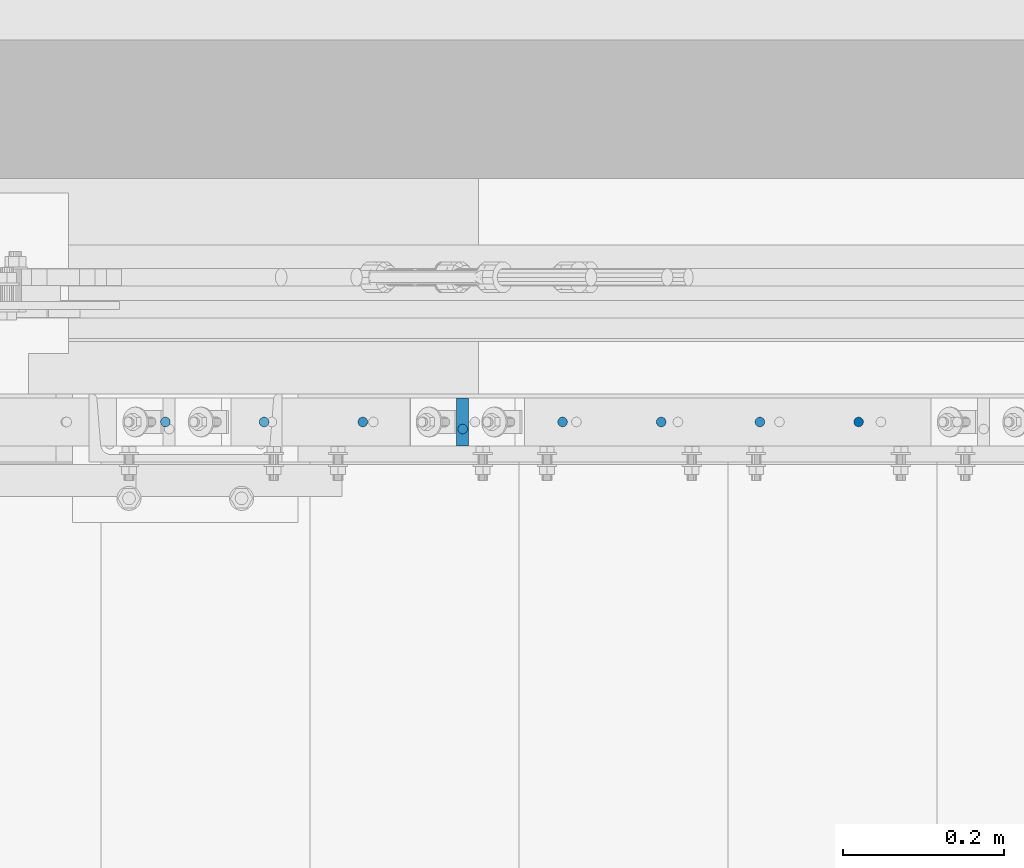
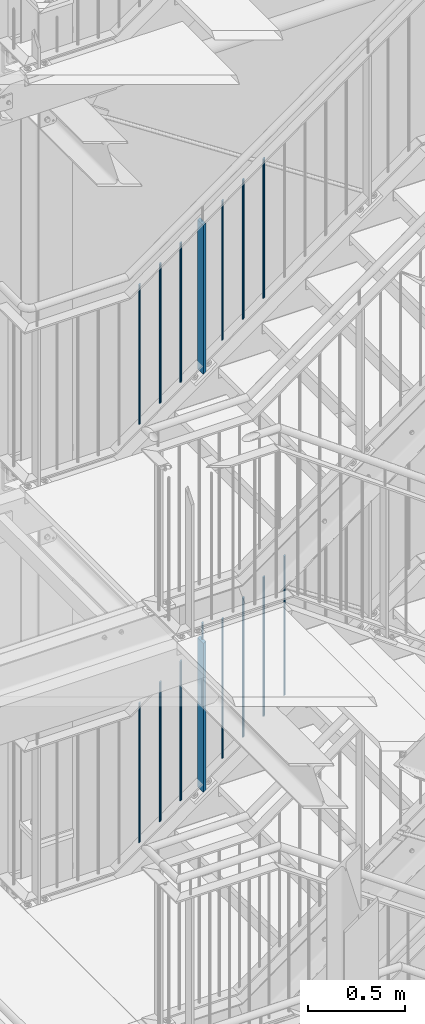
# One storey, part 77 of 831: 16 columns.
"""IFC2X3 building model written with IfcOpenShell, lengths in millimetres."""

from ifc_helpers import new_model, entity, si_unit, converted_unit, frame, origin, origin_with_axes, origin_2d, place, context, project, spatial, rectangle, circle, extrude, clip, halfspace, material, element, save


model = new_model("IFC2X3")

# Units and contexts
model_context = context("Model", 3, precision=1e-09, world=origin_with_axes())
ifc_project = project(units=[si_unit("LENGTHUNIT", "METRE", prefix="MILLI"), si_unit("AREAUNIT", "SQUARE_METRE"), si_unit("VOLUMEUNIT", "CUBIC_METRE"), converted_unit("PLANEANGLEUNIT", "DEGREE", entity("IfcPlaneAngleMeasure", 0.01745329), si_unit("PLANEANGLEUNIT", "RADIAN"), dimensions=[0, 0, 0, 0, 0, 0, 0])], contexts=[model_context])

# Site, building, storey
site_placement = place(None, origin_with_axes())
site = spatial("IfcSite", under=ifc_project, at=site_placement, Name="Site", CompositionType="ELEMENT")
building_placement = place(site_placement, origin_with_axes())
building = spatial("IfcBuilding", under=site, at=building_placement, Name="Struktur 1", CompositionType="ELEMENT")
storey_placement = place(building_placement, origin_with_axes())
storey = spatial("IfcBuildingStorey", under=building, at=storey_placement, Name="Default Storey", CompositionType="ELEMENT", Elevation=0.0)

# Columns
ifc_material = material(Name="S235JR")
column_1_placement = place(None, frame((5686.71354585, 7347.936971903, 8769.69432193), z_axis=(0.0, 0.0, 1.0), x_axis=(0.0, -1.0, 0.0)))
element("IfcColumn", 1, at=column_1_placement, inside=storey, material=ifc_material, Name="Bar#1", ObjectType="Bar#1", context=model_context, shape_type="Clipping", body=[
    clip(clip(extrude(circle(Radius=6.0, at=origin_2d()), origin(), (0.0, 0.0, -1.0), 120.942253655), halfspace(frame((7347.936971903, -7845.864992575, -5783.633810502), z_axis=(0.0, -0.585945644, 0.810350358), x_axis=(1.0, 0.0, 0.0)), True)), halfspace(frame((7347.936971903, -7893.345946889, -5717.968660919), z_axis=(0.0, 0.585945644, -0.810350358), x_axis=(-1.0, 0.0, 0.0)), True)),
])
column_2_placement = place(None, frame((5686.71354585, 7356.736971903, 8685.043251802), z_axis=(0.0, 0.0, 1.0), x_axis=(1.0, 0.0, 0.0)))
element("IfcColumn", 2, at=column_2_placement, inside=storey, material=ifc_material, Name="Railing_Post_Stair#1", ObjectType="Railing_Post_Stair#1", context=model_context, shape_type="Clipping", body=[
    clip(clip(extrude(rectangle(XDim=15.0, YDim=60.0, at=origin_2d()), origin(), (0.0, 0.0, -1.0), 1013.13824851), halfspace(frame((-7395.184691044, -7356.736971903, -6322.264008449), z_axis=(-0.585945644, 0.0, 0.810350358), x_axis=(0.0, -1.0, 0.0)), True)), halfspace(frame((-7840.004364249, -7356.736971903, -5707.087864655), z_axis=(0.585945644, 0.0, -0.810350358), x_axis=(0.0, 1.0, 0.0)), True)),
])
column_3_placement = place(None, frame((5316.963498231, 7356.736971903, 8389.996253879), z_axis=(0.0, 0.0, 1.0), x_axis=(1.0, 0.0, 0.0)))
element("IfcColumn", 3, at=column_3_placement, inside=storey, material=ifc_material, Name="Railing_Picket_Stair#4", ObjectType="Railing_Picket_Stair#4", context=model_context, shape_type="Clipping", body=[
    clip(clip(extrude(circle(Radius=6.0, at=origin_2d()), origin(), (0.0, 0.0, -1.0), 896.057999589), halfspace(frame((-7470.25431663, -7356.736971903, -5412.040866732), z_axis=(0.585945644, 0.0, -0.810350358), x_axis=(0.0, 1.0, 0.0)), True)), halfspace(frame((-7054.731925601, -7356.736971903, -5986.699492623), z_axis=(-0.585945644, 0.0, 0.810350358), x_axis=(0.0, -1.0, 0.0)), True)),
])
column_4_placement = place(None, frame((5439.713522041, 7356.736971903, 8478.753963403), z_axis=(0.0, 0.0, 1.0), x_axis=(1.0, 0.0, 0.0)))
element("IfcColumn", 4, at=column_4_placement, inside=storey, material=ifc_material, Name="Railing_Picket_Stair#5", ObjectType="Railing_Picket_Stair#5", context=model_context, shape_type="Clipping", body=[
    clip(clip(extrude(circle(Radius=6.0, at=origin_2d()), origin(), (0.0, 0.0, -1.0), 896.057999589), halfspace(frame((-7593.004340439, -7356.736971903, -5500.798576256), z_axis=(0.585945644, 0.0, -0.810350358), x_axis=(0.0, 1.0, 0.0)), True)), halfspace(frame((-7177.48194941, -7356.736971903, -6075.457202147), z_axis=(-0.585945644, 0.0, 0.810350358), x_axis=(0.0, -1.0, 0.0)), True)),
])
column_5_placement = place(None, frame((5562.46354585, 7356.736971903, 8567.511672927), z_axis=(0.0, 0.0, 1.0), x_axis=(1.0, 0.0, 0.0)))
element("IfcColumn", 5, at=column_5_placement, inside=storey, material=ifc_material, Name="Railing_Picket_Stair#6", ObjectType="Railing_Picket_Stair#6", context=model_context, shape_type="Clipping", body=[
    clip(clip(extrude(circle(Radius=6.0, at=origin_2d()), origin(), (0.0, 0.0, -1.0), 896.057999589), halfspace(frame((-7715.754364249, -7356.736971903, -5589.55628578), z_axis=(0.585945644, 0.0, -0.810350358), x_axis=(0.0, 1.0, 0.0)), True)), halfspace(frame((-7300.23197322, -7356.736971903, -6164.214911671), z_axis=(-0.585945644, 0.0, 0.810350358), x_axis=(0.0, -1.0, 0.0)), True)),
])
column_6_placement = place(None, frame((5810.96354585, 7356.736971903, 8747.196288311), z_axis=(0.0, 0.0, 1.0), x_axis=(1.0, 0.0, 0.0)))
element("IfcColumn", 6, at=column_6_placement, inside=storey, material=ifc_material, Name="Railing_Picket_Stair#7", ObjectType="Railing_Picket_Stair#7", context=model_context, shape_type="Clipping", body=[
    clip(clip(extrude(circle(Radius=6.0, at=origin_2d()), origin(), (0.0, 0.0, -1.0), 896.057999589), halfspace(frame((-7964.254364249, -7356.736971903, -5769.240901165), z_axis=(0.585945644, 0.0, -0.810350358), x_axis=(0.0, 1.0, 0.0)), True)), halfspace(frame((-7548.73197322, -7356.736971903, -6343.899527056), z_axis=(-0.585945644, 0.0, 0.810350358), x_axis=(0.0, -1.0, 0.0)), True)),
])
column_7_placement = place(None, frame((5933.71356966, 7356.736971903, 8835.953997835), z_axis=(0.0, 0.0, 1.0), x_axis=(1.0, 0.0, 0.0)))
element("IfcColumn", 7, at=column_7_placement, inside=storey, material=ifc_material, Name="Railing_Picket_Stair#8", ObjectType="Railing_Picket_Stair#8", context=model_context, shape_type="Clipping", body=[
    clip(clip(extrude(circle(Radius=6.0, at=origin_2d()), origin(), (0.0, 0.0, -1.0), 896.057999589), halfspace(frame((-8087.004388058, -7356.736971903, -5857.998610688), z_axis=(0.585945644, 0.0, -0.810350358), x_axis=(0.0, 1.0, 0.0)), True)), halfspace(frame((-7671.481997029, -7356.736971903, -6432.657236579), z_axis=(-0.585945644, 0.0, 0.810350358), x_axis=(0.0, -1.0, 0.0)), True)),
])
column_8_placement = place(None, frame((6056.463593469, 7356.736971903, 8924.711707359), z_axis=(0.0, 0.0, 1.0), x_axis=(1.0, 0.0, 0.0)))
element("IfcColumn", 8, at=column_8_placement, inside=storey, material=ifc_material, Name="Railing_Picket_Stair#9", ObjectType="Railing_Picket_Stair#9", context=model_context, shape_type="Clipping", body=[
    clip(clip(extrude(circle(Radius=6.0, at=origin_2d()), origin(), (0.0, 0.0, -1.0), 896.057999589), halfspace(frame((-8209.754411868, -7356.736971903, -5946.756320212), z_axis=(0.585945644, 0.0, -0.810350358), x_axis=(0.0, 1.0, 0.0)), True)), halfspace(frame((-7794.232020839, -7356.736971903, -6521.414946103), z_axis=(-0.585945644, 0.0, 0.810350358), x_axis=(0.0, -1.0, 0.0)), True)),
])
column_9_placement = place(None, frame((6179.213617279, 7356.736971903, 9013.469416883), z_axis=(0.0, 0.0, 1.0), x_axis=(1.0, 0.0, 0.0)))
element("IfcColumn", 9, at=column_9_placement, inside=storey, material=ifc_material, Name="Railing_Picket_Stair#10", ObjectType="Railing_Picket_Stair#10", context=model_context, shape_type="Clipping", body=[
    clip(clip(extrude(circle(Radius=6.0, at=origin_2d()), origin(), (0.0, 0.0, -1.0), 896.057999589), halfspace(frame((-8332.504435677, -7356.736971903, -6035.514029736), z_axis=(0.585945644, 0.0, -0.810350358), x_axis=(0.0, 1.0, 0.0)), True)), halfspace(frame((-7916.982044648, -7356.736971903, -6610.172655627), z_axis=(-0.585945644, 0.0, 0.810350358), x_axis=(0.0, -1.0, 0.0)), True)),
])
column_10_placement = place(None, frame((5686.71354585, 7356.736971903, 11316.425342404), z_axis=(0.0, 0.0, 1.0), x_axis=(1.0, 0.0, 0.0)))
element("IfcColumn", 10, at=column_10_placement, inside=storey, material=ifc_material, Name="Railing_Post_Stair#1", ObjectType="Railing_Post_Stair#1", context=model_context, shape_type="Clipping", body=[
    clip(clip(extrude(rectangle(XDim=15.0, YDim=60.0, at=origin_2d()), origin(), (0.0, 0.0, -1.0), 1013.129684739), halfspace(frame((-8646.553290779, -7356.736971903, -7215.238944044), z_axis=(-0.585213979, 0.0, 0.810878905), x_axis=(0.0, -1.0, 0.0)), True)), halfspace(frame((-9091.126835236, -7356.736971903, -6599.232967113), z_axis=(0.585213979, 0.0, -0.810878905), x_axis=(0.0, 1.0, 0.0)), True)),
])
column_11_placement = place(None, frame((5316.963498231, 7356.736971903, 11021.904291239), z_axis=(0.0, 0.0, 1.0), x_axis=(1.0, 0.0, 0.0)))
element("IfcColumn", 11, at=column_11_placement, inside=storey, material=ifc_material, Name="Railing_Picket_Stair#4", ObjectType="Railing_Picket_Stair#4", context=model_context, shape_type="Clipping", body=[
    clip(clip(extrude(circle(Radius=6.0, at=origin_2d()), origin(), (0.0, 0.0, -1.0), 896.125751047), halfspace(frame((-8721.376787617, -7356.736971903, -6304.711915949), z_axis=(0.585213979, 0.0, -0.810878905), x_axis=(0.0, 1.0, 0.0)), True)), halfspace(frame((-8306.06394212, -7356.736971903, -6880.173947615), z_axis=(-0.585213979, 0.0, 0.810878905), x_axis=(0.0, -1.0, 0.0)), True)),
])
column_12_placement = place(None, frame((5439.713522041, 7356.736971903, 11110.493388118), z_axis=(0.0, 0.0, 1.0), x_axis=(1.0, 0.0, 0.0)))
element("IfcColumn", 12, at=column_12_placement, inside=storey, material=ifc_material, Name="Railing_Picket_Stair#5", ObjectType="Railing_Picket_Stair#5", context=model_context, shape_type="Clipping", body=[
    clip(clip(extrude(circle(Radius=6.0, at=origin_2d()), origin(), (0.0, 0.0, -1.0), 896.125751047), halfspace(frame((-8844.126811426, -7356.736971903, -6393.301012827), z_axis=(0.585213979, 0.0, -0.810878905), x_axis=(0.0, 1.0, 0.0)), True)), halfspace(frame((-8428.813965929, -7356.736971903, -6968.763044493), z_axis=(-0.585213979, 0.0, 0.810878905), x_axis=(0.0, -1.0, 0.0)), True)),
])
column_13_placement = place(None, frame((5562.46354585, 7356.736971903, 11199.082484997), z_axis=(0.0, 0.0, 1.0), x_axis=(1.0, 0.0, 0.0)))
element("IfcColumn", 13, at=column_13_placement, inside=storey, material=ifc_material, Name="Railing_Picket_Stair#6", ObjectType="Railing_Picket_Stair#6", context=model_context, shape_type="Clipping", body=[
    clip(clip(extrude(circle(Radius=6.0, at=origin_2d()), origin(), (0.0, 0.0, -1.0), 896.125751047), halfspace(frame((-8966.876835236, -7356.736971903, -6481.890109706), z_axis=(0.585213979, 0.0, -0.810878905), x_axis=(0.0, 1.0, 0.0)), True)), halfspace(frame((-8551.563989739, -7356.736971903, -7057.352141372), z_axis=(-0.585213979, 0.0, 0.810878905), x_axis=(0.0, -1.0, 0.0)), True)),
])
column_14_placement = place(None, frame((5810.96354585, 7356.736971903, 11378.425754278), z_axis=(0.0, 0.0, 1.0), x_axis=(1.0, 0.0, 0.0)))
element("IfcColumn", 14, at=column_14_placement, inside=storey, material=ifc_material, Name="Railing_Picket_Stair#7", ObjectType="Railing_Picket_Stair#7", context=model_context, shape_type="Clipping", body=[
    clip(clip(extrude(circle(Radius=6.0, at=origin_2d()), origin(), (0.0, 0.0, -1.0), 896.125751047), halfspace(frame((-9215.376835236, -7356.736971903, -6661.233378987), z_axis=(0.585213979, 0.0, -0.810878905), x_axis=(0.0, 1.0, 0.0)), True)), halfspace(frame((-8800.063989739, -7356.736971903, -7236.695410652), z_axis=(-0.585213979, 0.0, 0.810878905), x_axis=(0.0, -1.0, 0.0)), True)),
])
column_15_placement = place(None, frame((5933.71356966, 7356.736971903, 11467.014851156), z_axis=(0.0, 0.0, 1.0), x_axis=(1.0, 0.0, 0.0)))
element("IfcColumn", 15, at=column_15_placement, inside=storey, material=ifc_material, Name="Railing_Picket_Stair#8", ObjectType="Railing_Picket_Stair#8", context=model_context, shape_type="Clipping", body=[
    clip(clip(extrude(circle(Radius=6.0, at=origin_2d()), origin(), (0.0, 0.0, -1.0), 896.125751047), halfspace(frame((-9338.126859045, -7356.736971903, -6749.822475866), z_axis=(0.585213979, 0.0, -0.810878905), x_axis=(0.0, 1.0, 0.0)), True)), halfspace(frame((-8922.814013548, -7356.736971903, -7325.284507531), z_axis=(-0.585213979, 0.0, 0.810878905), x_axis=(0.0, -1.0, 0.0)), True)),
])
column_16_placement = place(None, frame((6056.463593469, 7356.736971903, 11555.603948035), z_axis=(0.0, 0.0, 1.0), x_axis=(1.0, 0.0, 0.0)))
element("IfcColumn", 16, at=column_16_placement, inside=storey, material=ifc_material, Name="Railing_Picket_Stair#9", ObjectType="Railing_Picket_Stair#9", context=model_context, shape_type="Clipping", body=[
    clip(clip(extrude(circle(Radius=6.0, at=origin_2d()), origin(), (0.0, 0.0, -1.0), 896.125751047), halfspace(frame((-9460.876882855, -7356.736971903, -6838.411572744), z_axis=(0.585213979, 0.0, -0.810878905), x_axis=(0.0, 1.0, 0.0)), True)), halfspace(frame((-9045.564037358, -7356.736971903, -7413.87360441), z_axis=(-0.585213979, 0.0, 0.810878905), x_axis=(0.0, -1.0, 0.0)), True)),
])

save(model, "model.ifc")
